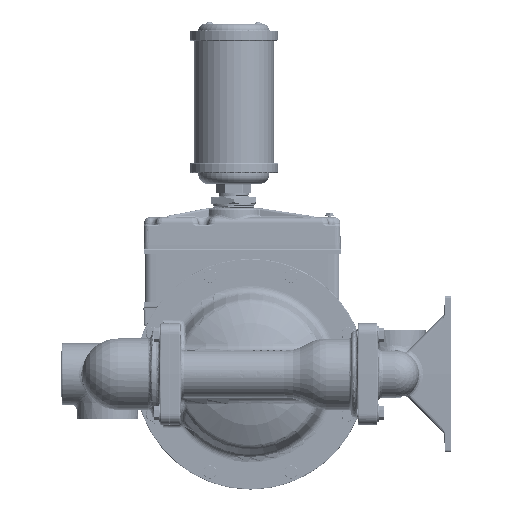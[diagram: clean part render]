
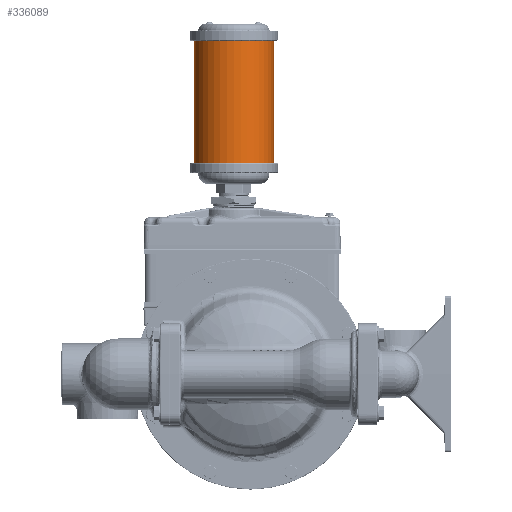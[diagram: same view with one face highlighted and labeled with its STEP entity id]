
A CAD part, left-side view. The second image highlights one B-rep face of the part: STEP entity #336089.
In plain terms, the highlighted cylindrical face has radius 45.339 mm (diameter 90.678 mm), a partial arc.
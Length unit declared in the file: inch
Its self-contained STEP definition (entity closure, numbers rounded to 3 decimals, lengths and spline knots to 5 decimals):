
#78596=CARTESIAN_POINT('',(0.,0.75,9.47));
#78597=DIRECTION('',(0.,0.,-1.));
#78598=DIRECTION('',(0.,-1.,0.));
#78599=AXIS2_PLACEMENT_3D('',#78596,#78597,#78598);
#78611=CARTESIAN_POINT('',(0.,0.75,14.97));
#78612=DIRECTION('',(0.,0.,1.));
#78613=DIRECTION('',(0.,1.,0.));
#78614=AXIS2_PLACEMENT_3D('',#78611,#78612,#78613);
#78809=DIRECTION('',(0.,0.,-1.));
#78810=VECTOR('',#78809,5.5);
#78811=CARTESIAN_POINT('',(0.,2.535,14.97));
#78812=LINE('',#78811,#78810);
#78813=DIRECTION('',(0.,0.,1.));
#78814=VECTOR('',#78813,5.5);
#78815=CARTESIAN_POINT('',(0.,-1.035,9.47));
#78816=LINE('',#78815,#78814);
#212508=CARTESIAN_POINT('',(0.,2.535,9.47));
#212509=CARTESIAN_POINT('',(0.,-1.035,9.47));
#212510=VERTEX_POINT('',#212508);
#212511=VERTEX_POINT('',#212509);
#214052=CARTESIAN_POINT('',(0.,-1.035,14.97));
#214053=CARTESIAN_POINT('',(0.,2.535,14.97));
#214054=VERTEX_POINT('',#214052);
#214055=VERTEX_POINT('',#214053);
#336078=CARTESIAN_POINT('',(0.,0.75,16.079));
#336079=DIRECTION('',(0.,0.,-1.));
#336080=DIRECTION('',(0.,-1.,0.));
#336081=AXIS2_PLACEMENT_3D('',#336078,#336079,#336080);
#336082=CYLINDRICAL_SURFACE('',#336081,1.785);
#336083=ORIENTED_EDGE('',*,*,#335807,.T.);
#336084=ORIENTED_EDGE('',*,*,#335819,.F.);
#336085=ORIENTED_EDGE('',*,*,#335838,.T.);
#336086=ORIENTED_EDGE('',*,*,#335822,.F.);
#336087=EDGE_LOOP('',(#336083,#336084,#336085,#336086));
#336088=FACE_OUTER_BOUND('',#336087,.F.);
#336089=ADVANCED_FACE('',(#336088),#336082,.T.);
#78600=CIRCLE('',#78599,1.785);
#78615=CIRCLE('',#78614,1.785);
#335807=EDGE_CURVE('',#212511,#212510,#78600,.T.);
#335819=EDGE_CURVE('',#214055,#212510,#78812,.T.);
#335822=EDGE_CURVE('',#212511,#214054,#78816,.T.);
#335838=EDGE_CURVE('',#214055,#214054,#78615,.T.);
